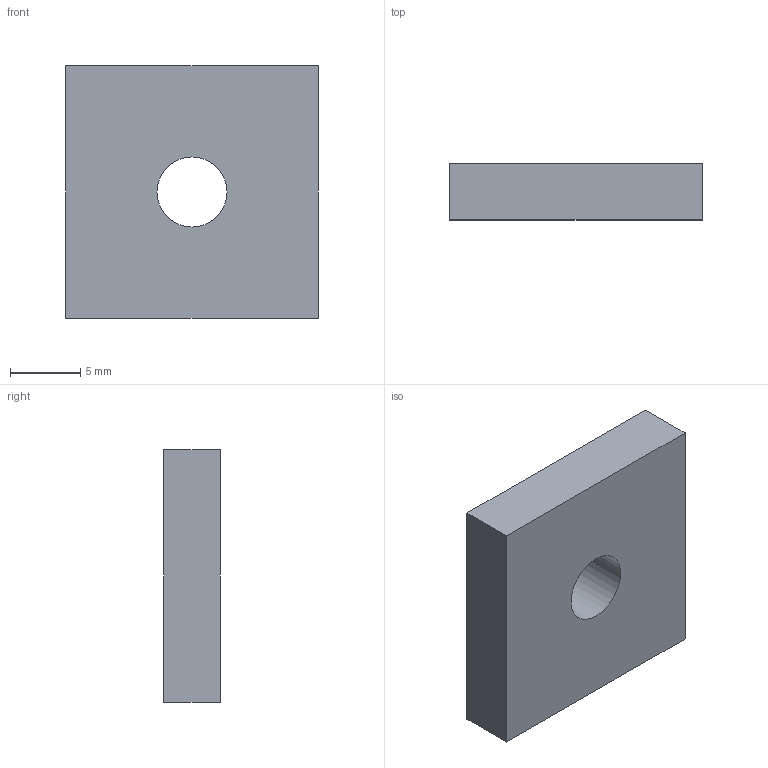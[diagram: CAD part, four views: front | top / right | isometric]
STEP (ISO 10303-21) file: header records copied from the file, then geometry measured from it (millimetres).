
FILE_DESCRIPTION(/* description */ ('Inserto piatto cava 10 M6'),/* implementation_level */ '2;1');
FILE_NAME(/* name */ 'C:\omnitec\Desktop\Inserti\N12-10-M6.stp',/* time_stamp */ '2021-02-18T17:12:03+01:00',/* author */ ('omnitec'),/* organization */ ('Microsoft'),/* preprocessor_version */ 'ST-DEVELOPER v18.1',/* originating_system */ 'Autodesk Inventor 2021',/* authorisation */ '');
FILE_SCHEMA (('AUTOMOTIVE_DESIGN { 1 0 10303 214 3 1 1 }'));
Length unit declared in the file: millimetre
Products named in the file (1): N12-10-M6
Bounding box: 18 x 4 x 18 mm (x, y, z)
Volume: 1217.5 mm3; surface area: 959.6 mm2
Topology: 1 solids, 1 shells, 7 faces, 15 edges, 10 vertices
Faces by surface type: plane 6, cylinder 1
Full cylindrical faces by diameter (mm): 5 x1
Entity records: 236 total; most frequent: DIRECTION 33, CARTESIAN_POINT 33, ORIENTED_EDGE 30, EDGE_CURVE 15, LINE 13, VECTOR 13, VERTEX_POINT 10, AXIS2_PLACEMENT_3D 10
